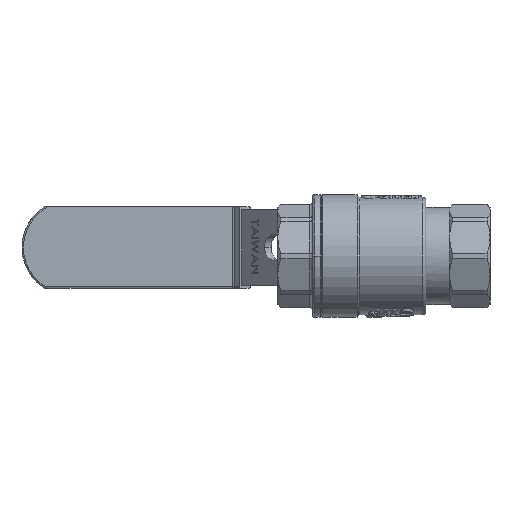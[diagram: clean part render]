
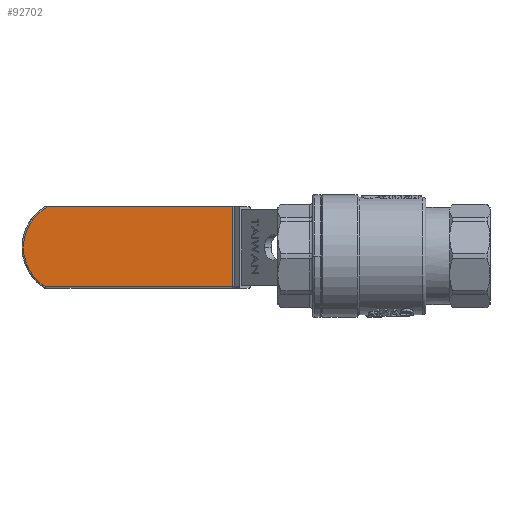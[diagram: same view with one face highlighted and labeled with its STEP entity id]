
A CAD part, front view. The second image highlights one B-rep face of the part: STEP entity #92702.
In plain terms, the highlighted planar face has unit normal (0, -1, 0).
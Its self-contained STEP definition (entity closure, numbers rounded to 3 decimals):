
#2119 = ORIENTED_EDGE ( 'NONE', *, *, #95185, .T. ) ;
#7902 = VECTOR ( 'NONE', #106652, 1000. ) ;
#9904 = VERTEX_POINT ( 'NONE', #88047 ) ;
#10523 = FACE_OUTER_BOUND ( 'NONE', #80423, .T. ) ;
#13698 = CARTESIAN_POINT ( 'NONE',  ( 50.456, 20.5, 13.15 ) ) ;
#13965 = EDGE_CURVE ( 'NONE', #9904, #79601, #23487, .T. ) ;
#14738 = AXIS2_PLACEMENT_3D ( 'NONE', #39641, #103744, #104133 ) ;
#14936 = CARTESIAN_POINT ( 'NONE',  ( 50.456, 20.5, -13.65 ) ) ;
#23487 = LINE ( 'NONE', #41402, #118097 ) ;
#32284 = LINE ( 'NONE', #115839, #7902 ) ;
#38232 = AXIS2_PLACEMENT_3D ( 'NONE', #52540, #88161, #60963 ) ;
#39641 = CARTESIAN_POINT ( 'NONE',  ( 49.6, 20.5, 12.65 ) ) ;
#41402 = CARTESIAN_POINT ( 'NONE',  ( 50.456, 20.5, 13.15 ) ) ;
#41725 = ORIENTED_EDGE ( 'NONE', *, *, #13965, .T. ) ;
#44421 = VERTEX_POINT ( 'NONE', #67793 ) ;
#47613 = VECTOR ( 'NONE', #61889, 1000. ) ;
#52540 = CARTESIAN_POINT ( 'NONE',  ( 105., 20.5, 0. ) ) ;
#60963 = DIRECTION ( 'NONE',  ( 0., 0., 1. ) ) ;
#61889 = DIRECTION ( 'NONE',  ( 1., 0., 0. ) ) ;
#67384 = VERTEX_POINT ( 'NONE', #14936 ) ;
#67793 = CARTESIAN_POINT ( 'NONE',  ( 112.344, 20.5, -13.65 ) ) ;
#79601 = VERTEX_POINT ( 'NONE', #13698 ) ;
#80423 = EDGE_LOOP ( 'NONE', ( #2119, #114578, #41725, #99932 ) ) ;
#81588 = EDGE_CURVE ( 'NONE', #79601, #67384, #32284, .T. ) ;
#84378 = CIRCLE ( 'NONE', #38232, 15.5 ) ;
#87118 = EDGE_CURVE ( 'NONE', #44421, #9904, #84378, .T. ) ;
#88047 = CARTESIAN_POINT ( 'NONE',  ( 113.205, 20.5, 13.15 ) ) ;
#88161 = DIRECTION ( 'NONE',  ( 0., -1., 0. ) ) ;
#89105 = CARTESIAN_POINT ( 'NONE',  ( 49.6, 20.5, -13.65 ) ) ;
#92702 = ADVANCED_FACE ( 'NONE', ( #10523 ), #94507, .F. ) ;
#94507 = PLANE ( 'NONE',  #14738 ) ;
#95185 = EDGE_CURVE ( 'NONE', #67384, #44421, #100771, .T. ) ;
#97061 = DIRECTION ( 'NONE',  ( -1., 0., 0. ) ) ;
#99932 = ORIENTED_EDGE ( 'NONE', *, *, #81588, .T. ) ;
#100771 = LINE ( 'NONE', #89105, #47613 ) ;
#103744 = DIRECTION ( 'NONE',  ( 0., 1., 0. ) ) ;
#104133 = DIRECTION ( 'NONE',  ( 0., 0., 1. ) ) ;
#106652 = DIRECTION ( 'NONE',  ( 0., 0., -1. ) ) ;
#114578 = ORIENTED_EDGE ( 'NONE', *, *, #87118, .T. ) ;
#115839 = CARTESIAN_POINT ( 'NONE',  ( 50.456, 20.5, 12.65 ) ) ;
#118097 = VECTOR ( 'NONE', #97061, 1000. ) ;
